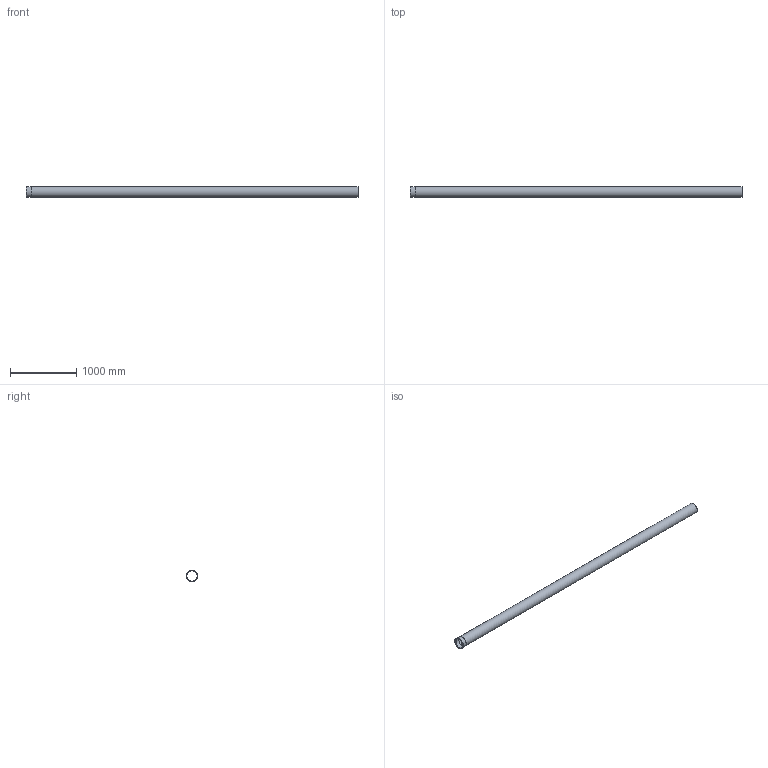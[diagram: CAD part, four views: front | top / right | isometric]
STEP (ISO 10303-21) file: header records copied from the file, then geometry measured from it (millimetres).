
FILE_DESCRIPTION((''),'2;1');
FILE_NAME('I:\WATTS\3D_CAD\3D_CAD_Models\Blucher_Drains\P_StraightPipe\WebsiteFiles\3D\STEP\P6-16.4-316.stp','2009-12-02T16:28:15',('menesek'),(''),'Autodesk Inventor 2010','Autodesk Inventor 2010','');
FILE_SCHEMA(('AUTOMOTIVE_DESIGN { 1 0 10303 214 1 1 1 1 }'));
Length unit declared in the file: inch
Products named in the file (1): P6-16.4-316
Bounding box: 5000 x 177.04 x 177.04 mm (x, y, z)
Volume: 3209038.7 mm3; surface area: 4990385.6 mm2
Topology: 1 solids, 1 shells, 109 faces, 285 edges, 190 vertices
Faces by surface type: plane 59, bspline 34, cylinder 16
Full cylindrical faces by diameter (mm): 157.226 x1, 159.766 x1, 160.782 x2, 177.038 x1
Entity records: 13936 total; most frequent: CARTESIAN_POINT 11558, ORIENTED_EDGE 548, DIRECTION 356, EDGE_CURVE 274, VERTEX_POINT 186, EDGE_LOOP 128, AXIS2_PLACEMENT_3D 120, VECTOR 116
